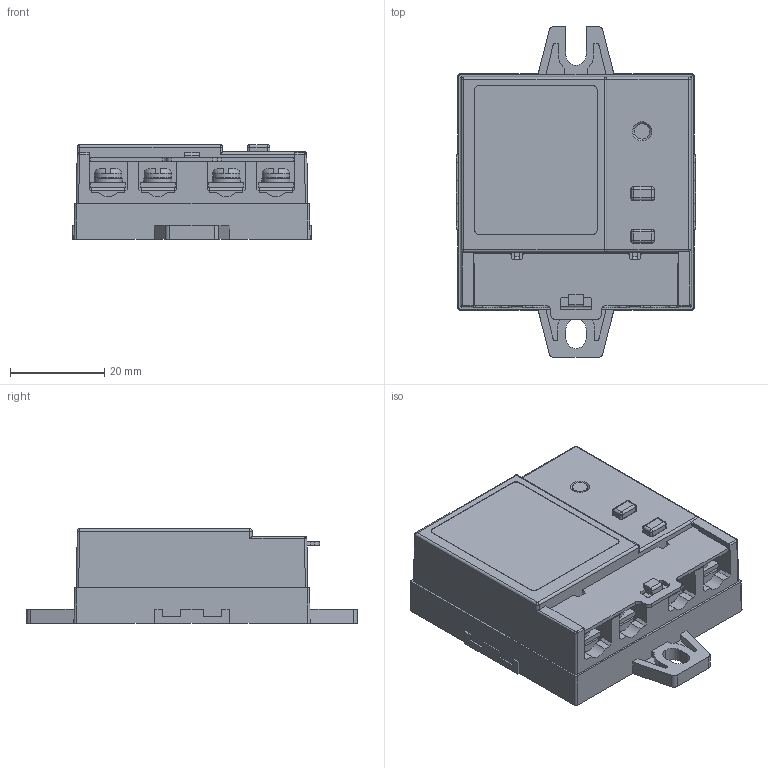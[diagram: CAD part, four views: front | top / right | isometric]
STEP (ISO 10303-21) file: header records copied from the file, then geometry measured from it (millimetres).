
FILE_DESCRIPTION (( 'STEP AP203' ), '1' );
FILE_NAME ('KD-L217RGV_230629.STEP', '2023-06-29T04:03:12', ( '' ), ( '' ), 'SwSTEP 2.0', 'SolidWorks 2022', '' );
FILE_SCHEMA (( 'CONFIG_CONTROL_DESIGN' ));
Length unit declared in the file: millimetre
Products named in the file (1): KD-L217RGV_230629
Bounding box: 50.8 x 70 x 20 mm (x, y, z)
Volume: 44466 mm3; surface area: 12231.2 mm2
Topology: 1 solids, 1 shells, 492 faces, 1311 edges, 828 vertices
Faces by surface type: plane 328, cylinder 112, sphere 30, torus 16, bspline 4, cone 2
Entity records: 15239 total; most frequent: CARTESIAN_POINT 2851, ORIENTED_EDGE 2602, DIRECTION 2542, EDGE_CURVE 1301, LINE 944, VECTOR 944, VERTEX_POINT 828, AXIS2_PLACEMENT_3D 799
